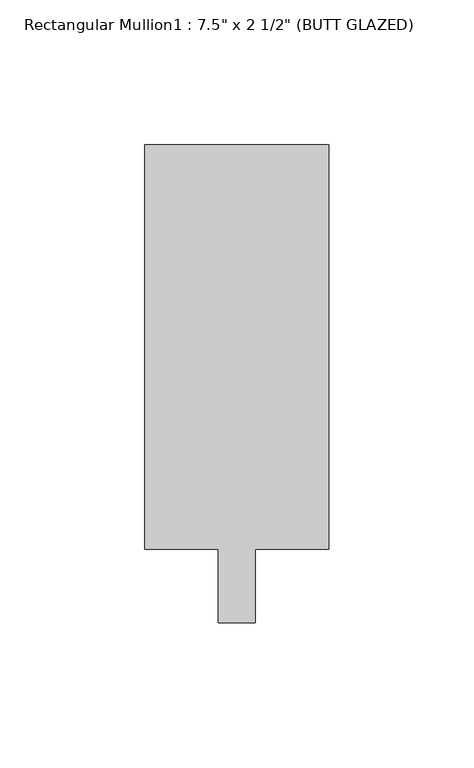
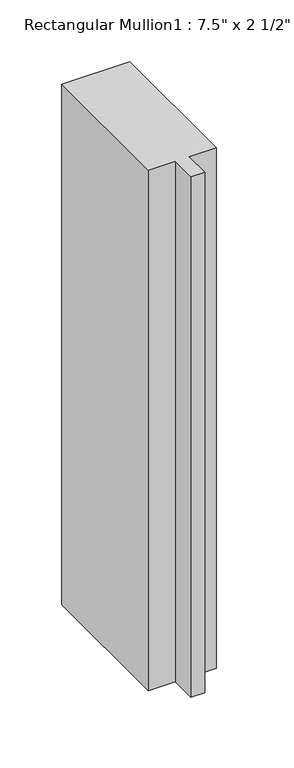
"""IFC4 building model written with IfcOpenShell, lengths in millimetres: member geometry."""

from ifc_helpers import new_model, si_unit, frame, origin, place, context, project, spatial, polyline, outline, extrude, source, transform, mapped, element, save


def member_d247dac3(model_context):
    return source(origin(), model_context, "Body", "SweptSolid", [
        extrude(outline(polyline([(31.75, 165.1), (31.75, 25.4), (6.35, 25.4), (6.35, 0.0), (-6.35, 0.0), (-6.35, 25.4), (-31.75, 25.4), (-31.75, 165.1), (31.75, 165.1)])), frame((0.0, 0.0, -514.35), z_axis=(0.0, 0.0, 1.0), x_axis=(1.0, 0.0, 0.0)), (0.0, 0.0, 1.0), 514.35),
    ])


if __name__ == "__main__":
    model = new_model("IFC4")
    model_context = context("Model", 3, world=origin())
    ifc_project = project(units=[si_unit("LENGTHUNIT", "METRE", prefix="MILLI")], contexts=[model_context])
    site = spatial("IfcSite", under=ifc_project)
    building = spatial("IfcBuilding", under=site)
    placement = place(None, origin())
    member_shape = member_d247dac3(model_context)
    element("IfcMember", 1, ObjectType="Rectangular Mullion1 : 7.5\" x 2 1/2\" (BUTT GLAZED)", at=placement, inside=building, context=model_context, shape_type="MappedRepresentation", body=[
        mapped(member_shape, transform((0.0, 0.0, 0.0), x_axis=(1.0, 0.0, 0.0), y_axis=(0.0, 1.0, 0.0), z_axis=(0.0, 0.0, 1.0))),
    ])
    save(model, "model.ifc")
